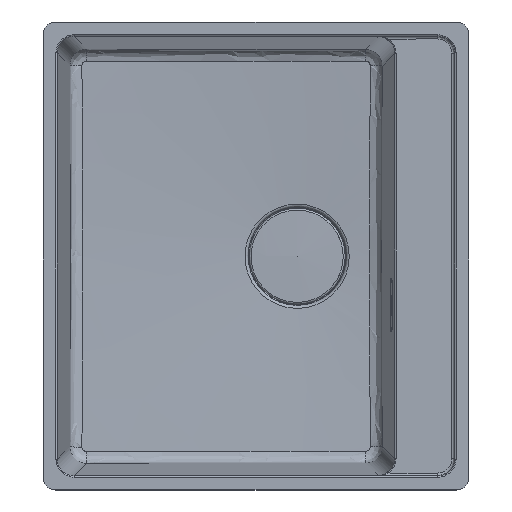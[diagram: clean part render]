
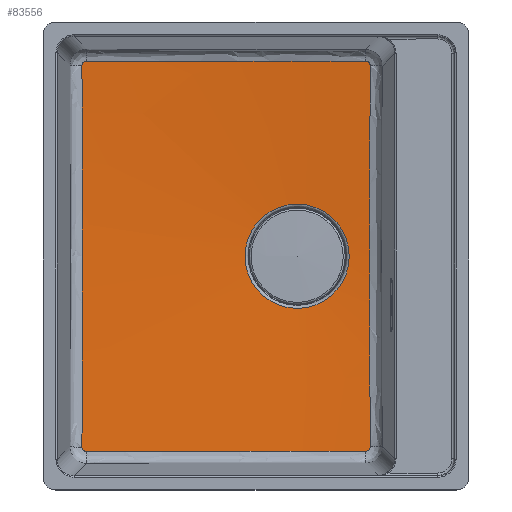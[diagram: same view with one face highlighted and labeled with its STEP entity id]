
A CAD part, top view. The second image highlights one B-rep face of the part: STEP entity #83556.
In plain terms, the highlighted conical face has half-angle 87 degrees and reference radius 431.05 mm.
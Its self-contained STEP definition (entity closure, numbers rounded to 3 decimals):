
#238=CONICAL_SURFACE('',#89072,431.05,1.518);
#2276=B_SPLINE_CURVE_WITH_KNOTS('',3,(#119033,#119034,#119035,#119036,#119037,
#119038,#119039,#119040),.UNSPECIFIED.,.F.,.F.,(4,1,1,1,1,4),(-0.784,
-0.56,-0.336,-0.224,-0.112,
0.),.UNSPECIFIED.);
#2277=B_SPLINE_CURVE_WITH_KNOTS('',3,(#119086,#119087,#119088,#119089,#119090,
#119091,#119092),.UNSPECIFIED.,.F.,.F.,(4,1,1,1,4),(0.,4.711,
11.778,14.133,32.978),.UNSPECIFIED.);
#2278=B_SPLINE_CURVE_WITH_KNOTS('',3,(#119137,#119138,#119139,#119140,#119141,
#119142,#119143),.UNSPECIFIED.,.F.,.F.,(4,1,1,1,4),(-0.784,
-0.56,-0.336,-0.224,0.),
 .UNSPECIFIED.);
#2279=B_SPLINE_CURVE_WITH_KNOTS('',3,(#119213,#119214,#119215,#119216,#119217,
#119218,#119219,#119220),.UNSPECIFIED.,.F.,.F.,(4,1,1,1,1,4),(0.,6.422,
12.845,19.267,22.478,22.478),
 .UNSPECIFIED.);
#2280=B_SPLINE_CURVE_WITH_KNOTS('',3,(#119221,#119222,#119223,#119224,#119225,
#119226,#119227),.UNSPECIFIED.,.F.,.F.,(4,1,1,1,4),(22.478,25.689,
32.112,38.534,44.956),.UNSPECIFIED.);
#2281=B_SPLINE_CURVE_WITH_KNOTS('',3,(#119272,#119273,#119274,#119275,#119276,
#119277,#119278),.UNSPECIFIED.,.F.,.F.,(4,1,1,1,4),(-0.784,
-0.56,-0.336,-0.112,0.),
 .UNSPECIFIED.);
#2283=B_SPLINE_CURVE_WITH_KNOTS('',3,(#119330,#119331,#119332,#119333,#119334,
#119335,#119336),.UNSPECIFIED.,.F.,.F.,(4,1,1,1,4),(0.,14.133,
16.489,23.555,32.978),.UNSPECIFIED.);
#2284=B_SPLINE_CURVE_WITH_KNOTS('',3,(#119387,#119388,#119389,#119390,#119391,
#119392,#119393,#119394),.UNSPECIFIED.,.F.,.F.,(4,1,1,1,1,4),(-0.784,
-0.672,-0.56,-0.448,-0.224,
0.),.UNSPECIFIED.);
#2285=B_SPLINE_CURVE_WITH_KNOTS('',3,(#119437,#119438,#119439,#119440,#119441,
#119442,#119443),.UNSPECIFIED.,.F.,.F.,(4,1,1,1,4),(0.,
19.296,25.728,32.16,45.024),
 .UNSPECIFIED.);
#7940=FACE_OUTER_BOUND('',#12813,.T.);
#12813=EDGE_LOOP('',(#57708,#57709,#57710,#57711,#57712,#57713,#57714,#57715,
#57716,#57717,#57718,#57719,#57720));
#17966=LINE('',#119449,#25567);
#25567=VECTOR('',#96039,431.05);
#33173=CIRCLE('',#89073,61.592);
#33174=CIRCLE('',#89074,61.592);
#35746=VERTEX_POINT('',#119030);
#35747=VERTEX_POINT('',#119032);
#35748=VERTEX_POINT('',#119084);
#35749=VERTEX_POINT('',#119135);
#35750=VERTEX_POINT('',#119210);
#35751=VERTEX_POINT('',#119212);
#35752=VERTEX_POINT('',#119270);
#35753=VERTEX_POINT('',#119328);
#35754=VERTEX_POINT('',#119385);
#35755=VERTEX_POINT('',#119445);
#35756=VERTEX_POINT('',#119446);
#44299=EDGE_CURVE('',#35746,#35747,#2276,.T.);
#44302=EDGE_CURVE('',#35748,#35746,#2277,.T.);
#44304=EDGE_CURVE('',#35749,#35748,#2278,.T.);
#44306=EDGE_CURVE('',#35750,#35751,#2279,.T.);
#44307=EDGE_CURVE('',#35751,#35749,#2280,.T.);
#44309=EDGE_CURVE('',#35752,#35750,#2281,.T.);
#44312=EDGE_CURVE('',#35753,#35752,#2283,.T.);
#44314=EDGE_CURVE('',#35754,#35753,#2284,.T.);
#44315=EDGE_CURVE('',#35747,#35754,#2285,.T.);
#44316=EDGE_CURVE('',#35755,#35756,#33173,.T.);
#44317=EDGE_CURVE('',#35756,#35755,#33174,.T.);
#44318=EDGE_CURVE('',#35756,#35751,#17966,.T.);
#57708=ORIENTED_EDGE('',*,*,#44316,.F.);
#57709=ORIENTED_EDGE('',*,*,#44317,.F.);
#57710=ORIENTED_EDGE('',*,*,#44318,.T.);
#57711=ORIENTED_EDGE('',*,*,#44306,.F.);
#57712=ORIENTED_EDGE('',*,*,#44309,.F.);
#57713=ORIENTED_EDGE('',*,*,#44312,.F.);
#57714=ORIENTED_EDGE('',*,*,#44314,.F.);
#57715=ORIENTED_EDGE('',*,*,#44315,.F.);
#57716=ORIENTED_EDGE('',*,*,#44299,.F.);
#57717=ORIENTED_EDGE('',*,*,#44302,.F.);
#57718=ORIENTED_EDGE('',*,*,#44304,.F.);
#57719=ORIENTED_EDGE('',*,*,#44307,.F.);
#57720=ORIENTED_EDGE('',*,*,#44318,.F.);
#83556=ADVANCED_FACE('',(#7940),#238,.F.);
#89072=AXIS2_PLACEMENT_3D('',#119444,#96033,#96034);
#89073=AXIS2_PLACEMENT_3D('',#119447,#96035,#96036);
#89074=AXIS2_PLACEMENT_3D('',#119448,#96037,#96038);
#96033=DIRECTION('center_axis',(0.,0.,1.));
#96034=DIRECTION('ref_axis',(-1.,0.,0.));
#96035=DIRECTION('center_axis',(0.,0.,1.));
#96036=DIRECTION('ref_axis',(1.,0.,0.));
#96037=DIRECTION('center_axis',(0.,0.,1.));
#96038=DIRECTION('ref_axis',(1.,0.,0.));
#96039=DIRECTION('',(0.999,0.,0.052));
#119030=CARTESIAN_POINT('',(-200.639,-230.577,-185.271));
#119032=CARTESIAN_POINT('',(-205.633,-225.586,-185.253));
#119033=CARTESIAN_POINT('Ctrl Pts',(-200.639,-230.577,
-185.271));
#119034=CARTESIAN_POINT('Ctrl Pts',(-201.386,-230.579,
-185.243));
#119035=CARTESIAN_POINT('Ctrl Pts',(-202.882,-230.245,
-185.197));
#119036=CARTESIAN_POINT('Ctrl Pts',(-204.384,-229.051,
-185.181));
#119037=CARTESIAN_POINT('Ctrl Pts',(-205.182,-227.773,
-185.194));
#119038=CARTESIAN_POINT('Ctrl Pts',(-205.552,-226.707,
-185.217));
#119039=CARTESIAN_POINT('Ctrl Pts',(-205.634,-225.959,
-185.24));
#119040=CARTESIAN_POINT('Ctrl Pts',(-205.633,-225.586,-185.253));
#119084=CARTESIAN_POINT('',(129.888,-230.348,-190.264));
#119086=CARTESIAN_POINT('Ctrl Pts',(129.888,-230.348,
-190.264));
#119087=CARTESIAN_POINT('Ctrl Pts',(114.141,-230.339,
-190.539));
#119088=CARTESIAN_POINT('Ctrl Pts',(74.76,-230.326,
-191.049));
#119089=CARTESIAN_POINT('Ctrl Pts',(27.484,-230.328,-191.037));
#119090=CARTESIAN_POINT('Ctrl Pts',(-67.043,-230.349,
-189.994));
#119091=CARTESIAN_POINT('Ctrl Pts',(-137.805,-230.438,
-187.694));
#119092=CARTESIAN_POINT('Ctrl Pts',(-200.639,-230.577,
-185.271));
#119135=CARTESIAN_POINT('',(134.874,-225.346,-190.42));
#119137=CARTESIAN_POINT('Ctrl Pts',(134.874,-225.346,
-190.42));
#119138=CARTESIAN_POINT('Ctrl Pts',(134.877,-226.092,
-190.383));
#119139=CARTESIAN_POINT('Ctrl Pts',(134.545,-227.586,-190.317));
#119140=CARTESIAN_POINT('Ctrl Pts',(133.354,-229.09,
-190.265));
#119141=CARTESIAN_POINT('Ctrl Pts',(131.759,-230.093,
-190.244));
#119142=CARTESIAN_POINT('Ctrl Pts',(130.636,-230.348,-190.251));
#119143=CARTESIAN_POINT('Ctrl Pts',(129.888,-230.348,
-190.264));
#119210=CARTESIAN_POINT('',(134.874,225.346,-190.42));
#119212=CARTESIAN_POINT('',(134.668,0.,-198.557));
#119213=CARTESIAN_POINT('Ctrl Pts',(134.874,225.346,-190.42));
#119214=CARTESIAN_POINT('Ctrl Pts',(134.806,203.955,-191.468));
#119215=CARTESIAN_POINT('Ctrl Pts',(134.684,161.164,-193.53));
#119216=CARTESIAN_POINT('Ctrl Pts',(134.572,96.925,-196.383));
#119217=CARTESIAN_POINT('Ctrl Pts',(134.628,43.21,-198.217));
#119218=CARTESIAN_POINT('Ctrl Pts',(134.668,10.802,-198.556));
#119219=CARTESIAN_POINT('Ctrl Pts',(134.668,0.,
-198.557));
#119220=CARTESIAN_POINT('Ctrl Pts',(134.668,0.,
-198.557));
#119221=CARTESIAN_POINT('Ctrl Pts',(134.668,0.,
-198.557));
#119222=CARTESIAN_POINT('Ctrl Pts',(134.668,-10.802,
-198.557));
#119223=CARTESIAN_POINT('Ctrl Pts',(134.629,-43.209,
-198.219));
#119224=CARTESIAN_POINT('Ctrl Pts',(134.572,-96.925,-196.382));
#119225=CARTESIAN_POINT('Ctrl Pts',(134.684,-161.164,
-193.531));
#119226=CARTESIAN_POINT('Ctrl Pts',(134.806,-203.955,
-191.468));
#119227=CARTESIAN_POINT('Ctrl Pts',(134.874,-225.346,
-190.42));
#119270=CARTESIAN_POINT('',(129.888,230.348,-190.264));
#119272=CARTESIAN_POINT('Ctrl Pts',(129.888,230.348,-190.264));
#119273=CARTESIAN_POINT('Ctrl Pts',(130.636,230.348,-190.251));
#119274=CARTESIAN_POINT('Ctrl Pts',(132.134,230.009,-190.241));
#119275=CARTESIAN_POINT('Ctrl Pts',(133.935,228.57,-190.28));
#119276=CARTESIAN_POINT('Ctrl Pts',(134.756,226.839,-190.349));
#119277=CARTESIAN_POINT('Ctrl Pts',(134.876,225.719,-190.402));
#119278=CARTESIAN_POINT('Ctrl Pts',(134.874,225.346,-190.42));
#119328=CARTESIAN_POINT('',(-200.639,230.577,-185.271));
#119330=CARTESIAN_POINT('Ctrl Pts',(-200.639,230.577,
-185.271));
#119331=CARTESIAN_POINT('Ctrl Pts',(-153.514,230.472,
-187.088));
#119332=CARTESIAN_POINT('Ctrl Pts',(-98.494,230.388,-188.953));
#119333=CARTESIAN_POINT('Ctrl Pts',(-19.781,230.338,
-190.551));
#119334=CARTESIAN_POINT('Ctrl Pts',(43.239,230.323,-191.26));
#119335=CARTESIAN_POINT('Ctrl Pts',(98.395,230.331,-190.814));
#119336=CARTESIAN_POINT('Ctrl Pts',(129.888,230.348,-190.264));
#119385=CARTESIAN_POINT('',(-205.633,225.586,-185.253));
#119387=CARTESIAN_POINT('Ctrl Pts',(-205.633,225.586,-185.253));
#119388=CARTESIAN_POINT('Ctrl Pts',(-205.634,225.959,
-185.24));
#119389=CARTESIAN_POINT('Ctrl Pts',(-205.552,226.707,
-185.217));
#119390=CARTESIAN_POINT('Ctrl Pts',(-205.182,227.773,
-185.194));
#119391=CARTESIAN_POINT('Ctrl Pts',(-204.384,229.05,
-185.181));
#119392=CARTESIAN_POINT('Ctrl Pts',(-202.882,230.244,
-185.197));
#119393=CARTESIAN_POINT('Ctrl Pts',(-201.386,230.579,
-185.243));
#119394=CARTESIAN_POINT('Ctrl Pts',(-200.639,230.577,
-185.271));
#119437=CARTESIAN_POINT('Ctrl Pts',(-205.633,-225.586,-185.253));
#119438=CARTESIAN_POINT('Ctrl Pts',(-205.51,-161.222,
-187.497));
#119439=CARTESIAN_POINT('Ctrl Pts',(-205.433,-75.291,
-189.793));
#119440=CARTESIAN_POINT('Ctrl Pts',(-205.437,32.266,
-189.787));
#119441=CARTESIAN_POINT('Ctrl Pts',(-205.469,118.263,
-188.65));
#119442=CARTESIAN_POINT('Ctrl Pts',(-205.551,182.676,
-186.749));
#119443=CARTESIAN_POINT('Ctrl Pts',(-205.633,225.586,-185.253));
#119444=CARTESIAN_POINT('Origin',(48.6,0.,-180.475));
#119445=CARTESIAN_POINT('',(-12.992,0.,-199.838));
#119446=CARTESIAN_POINT('',(110.192,0.,-199.838));
#119447=CARTESIAN_POINT('Origin',(48.6,0.,
-199.838));
#119448=CARTESIAN_POINT('Origin',(48.6,0.,
-199.838));
#119449=CARTESIAN_POINT('',(479.65,0.,-180.475));
